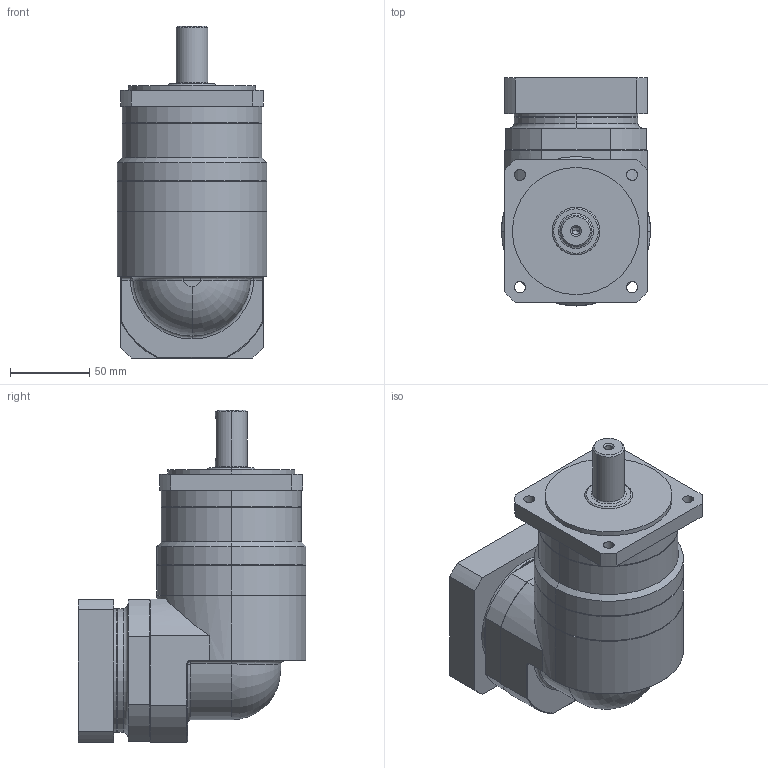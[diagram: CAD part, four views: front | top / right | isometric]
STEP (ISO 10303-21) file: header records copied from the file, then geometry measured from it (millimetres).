
FILE_DESCRIPTION (( 'STEP AP214' ), '1' );
FILE_NAME ('FBR090-L1-S2-P2 19-70-90-M6.STEP', '2025-02-15T07:34:44', ( '微软用户' ), ( '微软中国' ), 'SwSTEP 2.0', 'SolidWorks 2021', '' );
FILE_SCHEMA (( 'AUTOMOTIVE_DESIGN' ));
Length unit declared in the file: millimetre
Products named in the file (1): FBR090-L1-S2-P2 19-70-90-M6
Bounding box: 94 x 143.5 x 209 mm (x, y, z)
Volume: 1326389.4 mm3; surface area: 104033.9 mm2
Topology: 1 solids, 1 shells, 170 faces, 392 edges, 239 vertices
Faces by surface type: cylinder 69, plane 60, cone 27, torus 10, bspline 2, sphere 2
Entity records: 5301 total; most frequent: CARTESIAN_POINT 1295, DIRECTION 889, ORIENTED_EDGE 776, EDGE_CURVE 388, AXIS2_PLACEMENT_3D 355, VERTEX_POINT 239, EDGE_LOOP 197, CIRCLE 186
